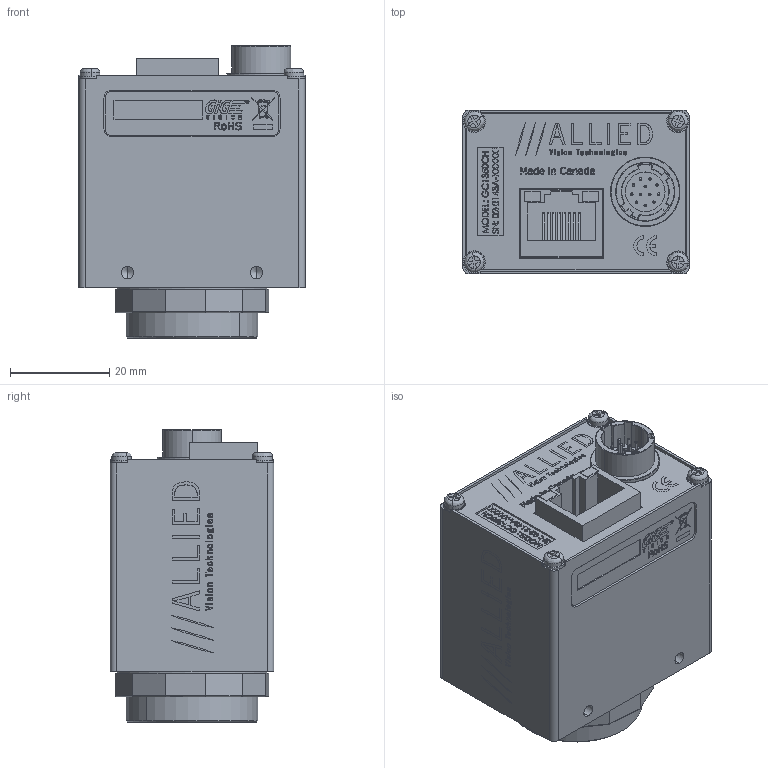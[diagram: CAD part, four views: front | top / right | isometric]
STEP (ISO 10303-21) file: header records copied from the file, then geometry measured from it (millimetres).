
FILE_DESCRIPTION (( 'STEP AP214' ), '1' );
FILE_NAME ('GC1380CH.STEP', '2013-07-31T19:14:00', ( '' ), ( '' ), 'SwSTEP 2.0', 'SolidWorks 2013', '' );
FILE_SCHEMA (( 'AUTOMOTIVE_DESIGN' ));
Length unit declared in the file: millimetre
Products named in the file (22): 110054AB-IR FILTER SUPPORT; 440002-IR CUT FILTER 22MM DIA; GC1380CH; 740123A-GC MAC LABEL; 740032B-GC MAIN LABEL; 200047A-A GC INTERFACE PCB ASSY; 260033-AMPHENOL RJHS-3381; 110003AC-CV CMOUNT RING; 740073A-GC1380CH LABEL PRINT; 110031A-B EC-CCD LOCKING RING; 140013-washer spring lock M2; 140023-SCREW SKT CAP M2x10 SS; 140017-SCREW PAN M2x4 SS; 110043A GC BACK PLATE; 110043A GC BACK PLATE - WO HW; 110042C GC-CCD FRONT_Finished with logo; 260034-HIROSE HR10A-10R-12PB; 220054-SONY ICX285AQ; Sony ICX285 WINDOW; Sony ICX285 BODY; 100097A-IR FILTER ASSEMBLY 0.75 INCH; 110045B-EC-CCD DUST SHIELD GASKET
Assembly tree (30 placements, depth 3):
  GC1380CH
    110045B-EC-CCD DUST SHIELD GASKET
    220054-SONY ICX285AQ
      Sony ICX285 BODY
      Sony ICX285 WINDOW
    260034-HIROSE HR10A-10R-12PB
    110042C GC-CCD FRONT_Finished with logo
    110043A GC BACK PLATE
      110043A GC BACK PLATE - WO HW
    140017-SCREW PAN M2x4 SS  x4
    140023-SCREW SKT CAP M2x10 SS  x2
    140013-washer spring lock M2  x6
    110031A-B EC-CCD LOCKING RING
    740073A-GC1380CH LABEL PRINT
    110003AC-CV CMOUNT RING
    200047A-A GC INTERFACE PCB ASSY
      260033-AMPHENOL RJHS-3381
    740032B-GC MAIN LABEL
    740123A-GC MAC LABEL
    100097A-IR FILTER ASSEMBLY 0.75 INCH
      440002-IR CUT FILTER 22MM DIA
      110054AB-IR FILTER SUPPORT
Bounding box: 45.72 x 33.02 x 59.01 mm (x, y, z)
Volume: 24127.4 mm3; surface area: 35252.9 mm2
Topology: 26 solids, 26 shells, 3291 faces, 8655 edges, 5628 vertices
Faces by surface type: plane 1867, bspline 921, cylinder 309, cone 194
Entity records: 165197 total; most frequent: CARTESIAN_POINT 57614, ORIENTED_EDGE 16486, DIRECTION 11749, EDGE_CURVE 8243, LINE 5661, VECTOR 5661, VERTEX_POINT 5410, EDGE_LOOP 3495
